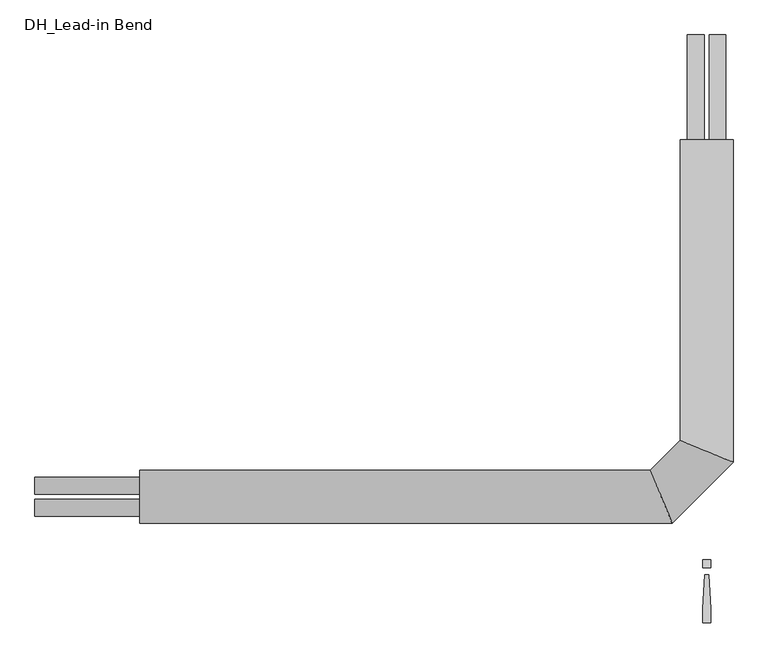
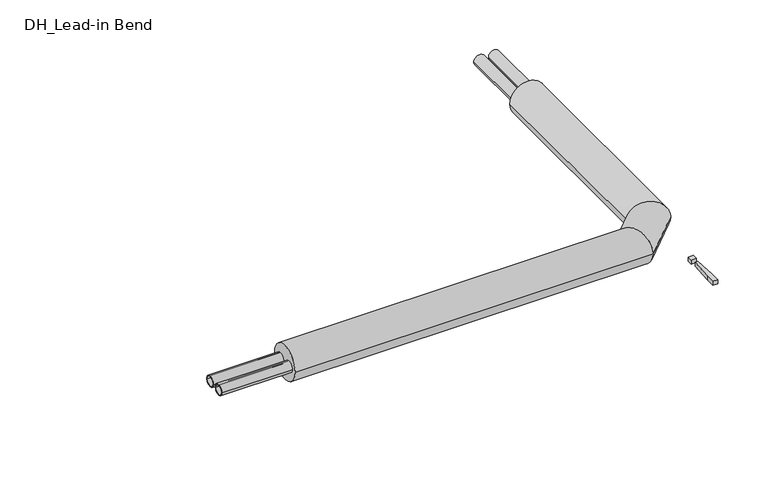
"""IFC4 building model written with IfcOpenShell, lengths in millimetres: pipe fitting geometry, DH_Lead-in Bend : RVT/RVX/RTX DUO 11 Heating Vertical."""

from ifc_helpers import new_model, si_unit, point, frame, frame_2d, origin, origin_with_axes, place, context, project, spatial, polyline, circle_curve, ellipse_curve, trimmed, segment, composite_curve, outline, extrude, source, transform, mapped, element, save
from ifc_brep_helpers import plane_surface, cylinder_surface, advanced_brep


def dh_lead_in_bend_c489b661(model_context):
    return source(origin(), model_context, "Body", "SolidModel", [
        extrude(outline(composite_curve([segment(trimmed(circle_curve(frame_2d((-26.0, 0.0)), 20.0), [point((-6.0, 0.0))], [point((-46.0, 0.0))], False, "CARTESIAN"), True, "CONTINUOUS"), segment(trimmed(circle_curve(frame_2d((-26.0, 0.0)), 20.0), [point((-46.0, 0.0))], [point((-6.0, 0.0))], False, "CARTESIAN"), True, "CONTINUOUS")], self_intersect=False), holes=[composite_curve([segment(trimmed(circle_curve(frame_2d((-26.0, 0.0)), 16.3), [point((-9.7, 0.0))], [point((-42.3, 0.0))], True, "CARTESIAN"), True, "CONTINUOUS"), segment(trimmed(circle_curve(frame_2d((-26.0, 0.0)), 16.3), [point((-42.3, 0.0))], [point((-9.7, 0.0))], True, "CARTESIAN"), True, "CONTINUOUS")], self_intersect=False)]), frame((-1600.0, 0.0, 0.0), z_axis=(1.0, 0.0, 0.0), x_axis=(0.0, 1.0, 0.0)), (0.0, 0.0, 1.0), 250.0),
        advanced_brep(
        [(-1350.0, -63.0, 0.0), (-1350.0, 63.0, 0.0), (-82.2045456, -63.0, 0.0), (-134.3954544, 63.0, 0.0), (63.0, 850.0, 0.0), (-63.0, 850.0, 0.0), (-63.0, 134.3954544, 0.0), (63.0, 82.2045456, 0.0)],
        [
            (0, 1, circle_curve(frame((-1350.0, 0.0, 0.0), z_axis=(-1.0, 0.0, 0.0), x_axis=(0.0, 1.0, 0.0)), 63.0)),
            (1, 0, circle_curve(frame((-1350.0, 0.0, 0.0), z_axis=(-1.0, 0.0, 0.0), x_axis=(0.0, 1.0, 0.0)), 63.0)),
            (0, 2),
            (2, 3, ellipse_curve(frame((-108.3, 0.0, 0.0), z_axis=(-0.9238795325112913, -0.3826834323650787, 0.0), x_axis=(-0.3826834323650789, 0.9238795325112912, 0.0)), 68.1907086, 63.0)),
            (3, 1),
            (3, 2, ellipse_curve(frame((-108.3, 0.0, 0.0), z_axis=(-0.9238795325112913, -0.3826834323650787, 0.0), x_axis=(-0.3826834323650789, 0.9238795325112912, 0.0)), 68.1907086, 63.0)),
            (4, 5, circle_curve(frame((0.0, 850.0, 0.0), z_axis=(0.0, 1.0, 0.0), x_axis=(-1.0, 0.0, 0.0)), 63.0)),
            (5, 4, circle_curve(frame((0.0, 850.0, 0.0), z_axis=(0.0, 1.0, 0.0), x_axis=(-1.0, 0.0, 0.0)), 63.0)),
            (6, 7, ellipse_curve(frame((0.0, 108.3, 0.0), z_axis=(0.3826834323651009, 0.9238795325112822, 0.0), x_axis=(0.9238795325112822, -0.3826834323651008, 0.0)), 68.1907086, 63.0)),
            (7, 4),
            (5, 6),
            (7, 6, ellipse_curve(frame((0.0, 108.3, 0.0), z_axis=(0.3826834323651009, 0.9238795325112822, 0.0), x_axis=(0.9238795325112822, -0.3826834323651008, 0.0)), 68.1907086, 63.0)),
            (2, 7),
            (6, 3),
        ],
        [
            plane_surface(frame((-1350.0, 0.0, 0.0), z_axis=(-1.0, 0.0, 0.0), x_axis=(0.0, 0.0, 1.0))),
            cylinder_surface(frame((-1350.0, 0.0, 0.0), z_axis=(-1.0, 0.0, 0.0), x_axis=(0.0, 1.0, 0.0)), 63.0),
            plane_surface(frame((0.0, 850.0, 0.0), z_axis=(0.0, 1.0, 0.0), x_axis=(0.0, 0.0, 1.0))),
            cylinder_surface(frame((0.0, 108.3, 0.0), z_axis=(0.0, -1.0, 0.0), x_axis=(-1.0, 0.0, 0.0)), 63.0),
            cylinder_surface(frame((-108.3, 0.0, 0.0), z_axis=(-0.7071067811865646, -0.7071067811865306, 0.0), x_axis=(-0.7071067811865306, 0.7071067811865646, 0.0)), 63.0),
        ],
        [
            (0, [[1, 2]]),
            (1, [[-1, 3, 4, 5]]),
            (1, [[-2, -5, 6, -3]]),
            (2, [[7, 8]]),
            (3, [[9, 10, -8, 11]]),
            (3, [[12, -11, -7, -10]]),
            (4, [[-4, 13, -9, 14]]),
            (4, [[-6, -14, -12, -13]]),
        ],
    ),
        extrude(outline(composite_curve([segment(trimmed(circle_curve(frame_2d((0.0, -26.0)), 20.0), [point((0.0, -6.0))], [point((0.0, -46.0))], False, "CARTESIAN"), True, "CONTINUOUS"), segment(trimmed(circle_curve(frame_2d((0.0, -26.0)), 20.0), [point((0.0, -46.0))], [point((0.0, -6.0))], False, "CARTESIAN"), True, "CONTINUOUS")], self_intersect=False), holes=[composite_curve([segment(trimmed(circle_curve(frame_2d((0.0, -26.0)), 16.3), [point((0.0, -9.7))], [point((0.0, -42.3))], True, "CARTESIAN"), True, "CONTINUOUS"), segment(trimmed(circle_curve(frame_2d((0.0, -26.0)), 16.3), [point((0.0, -42.3))], [point((0.0, -9.7))], True, "CARTESIAN"), True, "CONTINUOUS")], self_intersect=False)]), frame((0.0, 850.0, 0.0), z_axis=(0.0, 1.0, 0.0), x_axis=(0.0, 0.0, 1.0)), (0.0, 0.0, 1.0), 250.0),
        extrude(outline(composite_curve([segment(trimmed(circle_curve(frame_2d((26.0, 0.0)), 20.0), [point((6.0, 0.0))], [point((46.0, 0.0))], False, "CARTESIAN"), True, "CONTINUOUS"), segment(trimmed(circle_curve(frame_2d((26.0, 0.0)), 20.0), [point((46.0, 0.0))], [point((6.0, 0.0))], False, "CARTESIAN"), True, "CONTINUOUS")], self_intersect=False), holes=[composite_curve([segment(trimmed(circle_curve(frame_2d((26.0, 0.0)), 16.3), [point((9.7, 0.0))], [point((42.3, 0.0))], True, "CARTESIAN"), True, "CONTINUOUS"), segment(trimmed(circle_curve(frame_2d((26.0, 0.0)), 16.3), [point((42.3, 0.0))], [point((9.7, 0.0))], True, "CARTESIAN"), True, "CONTINUOUS")], self_intersect=False)]), frame((-1600.0, 0.0, 0.0), z_axis=(1.0, 0.0, 0.0), x_axis=(0.0, 1.0, 0.0)), (0.0, 0.0, 1.0), 250.0),
        extrude(outline(composite_curve([segment(trimmed(circle_curve(frame_2d((0.0, 26.0)), 20.0), [point((0.0, 6.0))], [point((0.0, 46.0))], False, "CARTESIAN"), True, "CONTINUOUS"), segment(trimmed(circle_curve(frame_2d((0.0, 26.0)), 20.0), [point((0.0, 46.0))], [point((0.0, 6.0))], False, "CARTESIAN"), True, "CONTINUOUS")], self_intersect=False), holes=[composite_curve([segment(trimmed(circle_curve(frame_2d((0.0, 26.0)), 16.3), [point((0.0, 9.7))], [point((0.0, 42.3))], True, "CARTESIAN"), True, "CONTINUOUS"), segment(trimmed(circle_curve(frame_2d((0.0, 26.0)), 16.3), [point((0.0, 42.3))], [point((0.0, 9.7))], True, "CARTESIAN"), True, "CONTINUOUS")], self_intersect=False)]), frame((0.0, 850.0, 0.0), z_axis=(0.0, 1.0, 0.0), x_axis=(0.0, 0.0, 1.0)), (0.0, 0.0, 1.0), 250.0),
        extrude(outline(polyline([(4.7088895, -185.3166715), (9.4177791, -266.6553807), (9.4177791, -300.6844652), (-9.4177791, -300.6844652), (-9.4177791, -266.6553807), (-4.7088895, -185.3166715), (4.7088895, -185.3166715)])), origin_with_axes(), (0.0, 0.0, 1.0), 15.0),
        extrude(outline(polyline([(9.4177791, -150.0), (9.4177791, -168.8355582), (-9.4177791, -168.8355582), (-9.4177791, -150.0), (9.4177791, -150.0)])), origin_with_axes(), (0.0, 0.0, 1.0), 15.0),
    ])


if __name__ == "__main__":
    model = new_model("IFC4")
    model_context = context("Model", 3, world=origin())
    ifc_project = project(units=[si_unit("LENGTHUNIT", "METRE", prefix="MILLI")], contexts=[model_context])
    site = spatial("IfcSite", under=ifc_project)
    building = spatial("IfcBuilding", under=site)
    placement = place(None, origin())
    dh_lead_in_bend_shape = dh_lead_in_bend_c489b661(model_context)
    element("IfcPipeFitting", 1, ObjectType="DH_Lead-in Bend : RVT/RVX/RTX DUO 11 Heating Vertical", at=placement, inside=building, context=model_context, shape_type="MappedRepresentation", body=[
        mapped(dh_lead_in_bend_shape, transform((0.0, 0.0, 0.0), x_axis=(1.0, 0.0, 0.0), y_axis=(0.0, 1.0, 0.0), z_axis=(0.0, 0.0, 1.0))),
    ])
    save(model, "model.ifc")
